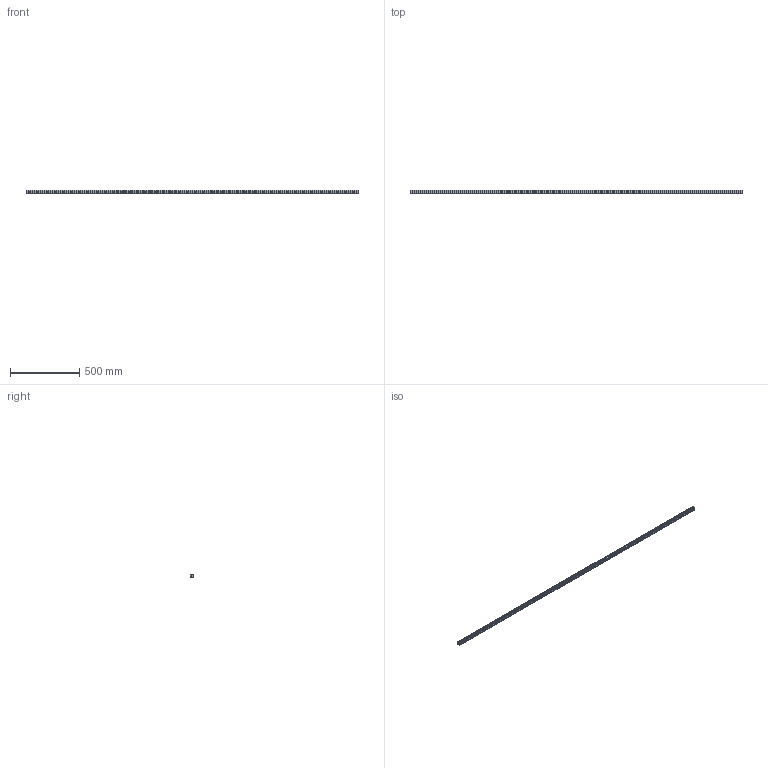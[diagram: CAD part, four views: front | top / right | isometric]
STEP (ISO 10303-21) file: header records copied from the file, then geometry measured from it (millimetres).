
FILE_DESCRIPTION (( 'STEP AP203' ), '1' );
FILE_NAME ('L1018.25R-2400.step', '2023-08-06T10:41:58', ( '' ), ( '' ), 'SwSTEP 2.0', 'SolidWorks 2019', '' );
FILE_SCHEMA (( 'CONFIG_CONTROL_DESIGN' ));
Length unit declared in the file: millimetre
Products named in the file (1): L1018.25R-2400
Bounding box: 2400 x 21.8 x 25 mm (x, y, z)
Volume: 998131.5 mm3; surface area: 239165.1 mm2
Topology: 1 solids, 1 shells, 389 faces, 881 edges, 494 vertices
Faces by surface type: cylinder 163, cone 160, plane 66
Entity records: 10358 total; most frequent: DIRECTION 1987, CARTESIAN_POINT 1685, ORIENTED_EDGE 1602, EDGE_CURVE 801, AXIS2_PLACEMENT_3D 796, VERTEX_POINT 494, EDGE_LOOP 469, CIRCLE 406
